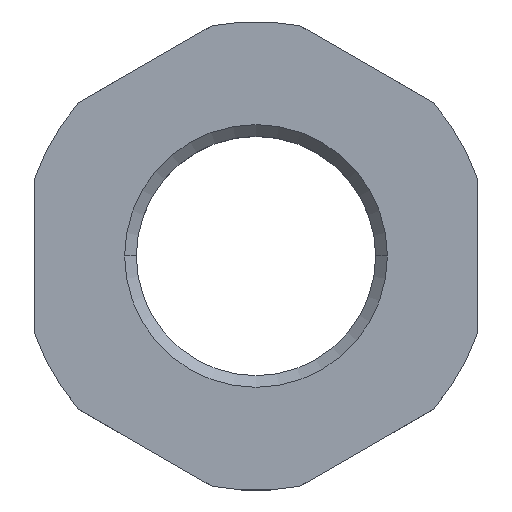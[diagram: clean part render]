
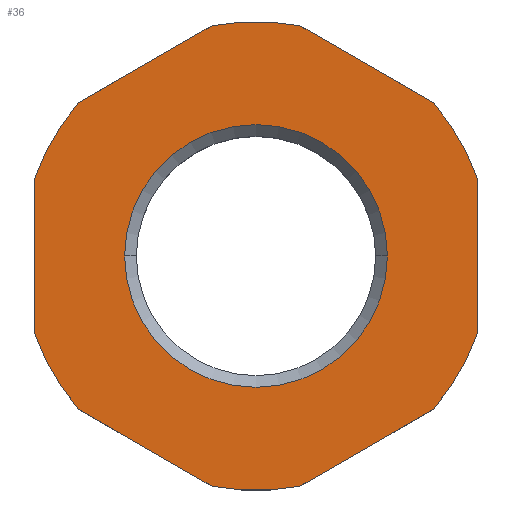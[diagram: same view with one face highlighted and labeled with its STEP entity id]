
A CAD part, top view. The second image highlights one B-rep face of the part: STEP entity #36.
In plain terms, the highlighted planar face has unit normal (0, 0, 1).
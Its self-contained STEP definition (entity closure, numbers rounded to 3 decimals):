
#14 = VERTEX_POINT ( 'NONE', #747 ) ;
#15 = EDGE_CURVE ( 'NONE', #218, #14, #746, .T. ) ;
#21 = ORIENTED_EDGE ( 'NONE', *, *, #365, .T. ) ;
#28 = EDGE_CURVE ( 'NONE', #34, #35, #690, .T. ) ;
#29 = EDGE_LOOP ( 'NONE', ( #237, #31, #231, #233, #240, #242, #243, #245, #235, #251, #278, #296 ) ) ;
#30 = EDGE_LOOP ( 'NONE', ( #21, #33 ) ) ;
#31 = ORIENTED_EDGE ( 'NONE', *, *, #37, .T. ) ;
#32 = EDGE_CURVE ( 'NONE', #363, #366, #684, .T. ) ;
#33 = ORIENTED_EDGE ( 'NONE', *, *, #32, .T. ) ;
#34 = VERTEX_POINT ( 'NONE', #879 ) ;
#35 = VERTEX_POINT ( 'NONE', #884 ) ;
#36 = ADVANCED_FACE ( 'NONE', ( #853, #838 ), #958, .F. ) ;
#37 = EDGE_CURVE ( 'NONE', #35, #217, #840, .T. ) ;
#217 = VERTEX_POINT ( 'NONE', #1247 ) ;
#218 = VERTEX_POINT ( 'NONE', #1246 ) ;
#231 = ORIENTED_EDGE ( 'NONE', *, *, #232, .T. ) ;
#232 = EDGE_CURVE ( 'NONE', #217, #238, #1110, .T. ) ;
#233 = ORIENTED_EDGE ( 'NONE', *, *, #280, .T. ) ;
#234 = VERTEX_POINT ( 'NONE', #1106 ) ;
#235 = ORIENTED_EDGE ( 'NONE', *, *, #15, .T. ) ;
#236 = VERTEX_POINT ( 'NONE', #1105 ) ;
#237 = ORIENTED_EDGE ( 'NONE', *, *, #28, .T. ) ;
#238 = VERTEX_POINT ( 'NONE', #1104 ) ;
#240 = ORIENTED_EDGE ( 'NONE', *, *, #241, .T. ) ;
#241 = EDGE_CURVE ( 'NONE', #249, #236, #1233, .T. ) ;
#242 = ORIENTED_EDGE ( 'NONE', *, *, #248, .T. ) ;
#243 = ORIENTED_EDGE ( 'NONE', *, *, #244, .T. ) ;
#244 = EDGE_CURVE ( 'NONE', #247, #234, #1229, .T. ) ;
#245 = ORIENTED_EDGE ( 'NONE', *, *, #246, .T. ) ;
#246 = EDGE_CURVE ( 'NONE', #234, #218, #1225, .T. ) ;
#247 = VERTEX_POINT ( 'NONE', #1220 ) ;
#248 = EDGE_CURVE ( 'NONE', #236, #247, #1086, .T. ) ;
#249 = VERTEX_POINT ( 'NONE', #1082 ) ;
#250 = EDGE_CURVE ( 'NONE', #253, #279, #1081, .T. ) ;
#251 = ORIENTED_EDGE ( 'NONE', *, *, #254, .T. ) ;
#253 = VERTEX_POINT ( 'NONE', #1077 ) ;
#254 = EDGE_CURVE ( 'NONE', #14, #253, #1075, .T. ) ;
#278 = ORIENTED_EDGE ( 'NONE', *, *, #250, .T. ) ;
#279 = VERTEX_POINT ( 'NONE', #1194 ) ;
#280 = EDGE_CURVE ( 'NONE', #238, #249, #1193, .T. ) ;
#296 = ORIENTED_EDGE ( 'NONE', *, *, #319, .T. ) ;
#319 = EDGE_CURVE ( 'NONE', #279, #34, #1033, .T. ) ;
#363 = VERTEX_POINT ( 'NONE', #1472 ) ;
#365 = EDGE_CURVE ( 'NONE', #366, #363, #1471, .T. ) ;
#366 = VERTEX_POINT ( 'NONE', #1466 ) ;
#682 = CARTESIAN_POINT ( 'NONE',  ( 0., 0., 0. ) ) ;
#683 = AXIS2_PLACEMENT_3D ( 'NONE', #682, #945, #885 ) ;
#684 = CIRCLE ( 'NONE', #683, 10.088 ) ;
#687 = DIRECTION ( 'NONE',  ( -0.866, -0.5, 0. ) ) ;
#688 = VECTOR ( 'NONE', #687, 1000. ) ;
#689 = CARTESIAN_POINT ( 'NONE',  ( 0., 19.63, 0. ) ) ;
#690 = LINE ( 'NONE', #689, #688 ) ;
#743 = DIRECTION ( 'NONE',  ( 0., 1., 0. ) ) ;
#744 = VECTOR ( 'NONE', #743, 1000. ) ;
#745 = CARTESIAN_POINT ( 'NONE',  ( 17., -9.815, 0. ) ) ;
#746 = LINE ( 'NONE', #745, #744 ) ;
#747 = CARTESIAN_POINT ( 'NONE',  ( 17., 5.916, 0. ) ) ;
#832 = AXIS2_PLACEMENT_3D ( 'NONE', #881, #880, #931 ) ;
#838 = FACE_OUTER_BOUND ( 'NONE', #29, .T. ) ;
#840 = CIRCLE ( 'NONE', #832, 18. ) ;
#841 = CARTESIAN_POINT ( 'NONE',  ( 0., 0., 0. ) ) ;
#853 = FACE_BOUND ( 'NONE', #30, .T. ) ;
#873 = DIRECTION ( 'NONE',  ( 0., 0., -1. ) ) ;
#879 = CARTESIAN_POINT ( 'NONE',  ( -3.377, 17.68, 0. ) ) ;
#880 = DIRECTION ( 'NONE',  ( 0., 0., 1. ) ) ;
#881 = CARTESIAN_POINT ( 'NONE',  ( 0., 0., 0. ) ) ;
#884 = CARTESIAN_POINT ( 'NONE',  ( -13.623, 11.764, 0. ) ) ;
#885 = DIRECTION ( 'NONE',  ( -1., 0., 0. ) ) ;
#908 = DIRECTION ( 'NONE',  ( -1., 0., 0. ) ) ;
#931 = DIRECTION ( 'NONE',  ( 1., 0., 0. ) ) ;
#945 = DIRECTION ( 'NONE',  ( 0., 0., -1. ) ) ;
#958 = PLANE ( 'NONE',  #973 ) ;
#973 = AXIS2_PLACEMENT_3D ( 'NONE', #841, #873, #908 ) ;
#1029 = DIRECTION ( 'NONE',  ( 1., 0., 0. ) ) ;
#1030 = DIRECTION ( 'NONE',  ( 0., 0., 1. ) ) ;
#1031 = CARTESIAN_POINT ( 'NONE',  ( 0., 0., 0. ) ) ;
#1032 = AXIS2_PLACEMENT_3D ( 'NONE', #1031, #1030, #1029 ) ;
#1033 = CIRCLE ( 'NONE', #1032, 18. ) ;
#1071 = DIRECTION ( 'NONE',  ( 1., 0., 0. ) ) ;
#1072 = DIRECTION ( 'NONE',  ( 0., 0., 1. ) ) ;
#1073 = CARTESIAN_POINT ( 'NONE',  ( 0., 0., 0. ) ) ;
#1074 = AXIS2_PLACEMENT_3D ( 'NONE', #1073, #1072, #1071 ) ;
#1075 = CIRCLE ( 'NONE', #1074, 18. ) ;
#1077 = CARTESIAN_POINT ( 'NONE',  ( 13.623, 11.764, 0. ) ) ;
#1078 = DIRECTION ( 'NONE',  ( -0.866, 0.5, 0. ) ) ;
#1079 = VECTOR ( 'NONE', #1078, 1000. ) ;
#1080 = CARTESIAN_POINT ( 'NONE',  ( 17., 9.815, 0. ) ) ;
#1081 = LINE ( 'NONE', #1080, #1079 ) ;
#1082 = CARTESIAN_POINT ( 'NONE',  ( -13.623, -11.764, 0. ) ) ;
#1083 = DIRECTION ( 'NONE',  ( 1., 0., 0. ) ) ;
#1084 = DIRECTION ( 'NONE',  ( 0., 0., 1. ) ) ;
#1085 = AXIS2_PLACEMENT_3D ( 'NONE', #1219, #1084, #1083 ) ;
#1086 = CIRCLE ( 'NONE', #1085, 18. ) ;
#1104 = CARTESIAN_POINT ( 'NONE',  ( -17., -5.916, 0. ) ) ;
#1105 = CARTESIAN_POINT ( 'NONE',  ( -3.377, -17.68, 0. ) ) ;
#1106 = CARTESIAN_POINT ( 'NONE',  ( 13.623, -11.764, 0. ) ) ;
#1107 = DIRECTION ( 'NONE',  ( 0., -1., 0. ) ) ;
#1108 = VECTOR ( 'NONE', #1107, 1000. ) ;
#1109 = CARTESIAN_POINT ( 'NONE',  ( -17., 9.815, 0. ) ) ;
#1110 = LINE ( 'NONE', #1109, #1108 ) ;
#1189 = DIRECTION ( 'NONE',  ( 1., 0., 0. ) ) ;
#1190 = DIRECTION ( 'NONE',  ( 0., 0., 1. ) ) ;
#1191 = CARTESIAN_POINT ( 'NONE',  ( 0., 0., 0. ) ) ;
#1192 = AXIS2_PLACEMENT_3D ( 'NONE', #1191, #1190, #1189 ) ;
#1193 = CIRCLE ( 'NONE', #1192, 18. ) ;
#1194 = CARTESIAN_POINT ( 'NONE',  ( 3.377, 17.68, 0. ) ) ;
#1219 = CARTESIAN_POINT ( 'NONE',  ( 0., 0., 0. ) ) ;
#1220 = CARTESIAN_POINT ( 'NONE',  ( 3.377, -17.68, 0. ) ) ;
#1221 = DIRECTION ( 'NONE',  ( 1., 0., 0. ) ) ;
#1222 = DIRECTION ( 'NONE',  ( 0., 0., 1. ) ) ;
#1223 = CARTESIAN_POINT ( 'NONE',  ( 0., 0., 0. ) ) ;
#1224 = AXIS2_PLACEMENT_3D ( 'NONE', #1223, #1222, #1221 ) ;
#1225 = CIRCLE ( 'NONE', #1224, 18. ) ;
#1226 = DIRECTION ( 'NONE',  ( 0.866, 0.5, 0. ) ) ;
#1227 = VECTOR ( 'NONE', #1226, 1000. ) ;
#1228 = CARTESIAN_POINT ( 'NONE',  ( 0., -19.63, 0. ) ) ;
#1229 = LINE ( 'NONE', #1228, #1227 ) ;
#1230 = DIRECTION ( 'NONE',  ( 0.866, -0.5, 0. ) ) ;
#1231 = VECTOR ( 'NONE', #1230, 1000. ) ;
#1232 = CARTESIAN_POINT ( 'NONE',  ( -17., -9.815, 0. ) ) ;
#1233 = LINE ( 'NONE', #1232, #1231 ) ;
#1246 = CARTESIAN_POINT ( 'NONE',  ( 17., -5.916, 0. ) ) ;
#1247 = CARTESIAN_POINT ( 'NONE',  ( -17., 5.916, 0. ) ) ;
#1466 = CARTESIAN_POINT ( 'NONE',  ( 10.088, 0., 0. ) ) ;
#1467 = DIRECTION ( 'NONE',  ( -1., 0., 0. ) ) ;
#1468 = DIRECTION ( 'NONE',  ( 0., 0., -1. ) ) ;
#1469 = CARTESIAN_POINT ( 'NONE',  ( 0., 0., 0. ) ) ;
#1470 = AXIS2_PLACEMENT_3D ( 'NONE', #1469, #1468, #1467 ) ;
#1471 = CIRCLE ( 'NONE', #1470, 10.088 ) ;
#1472 = CARTESIAN_POINT ( 'NONE',  ( -10.088, 0., 0. ) ) ;
